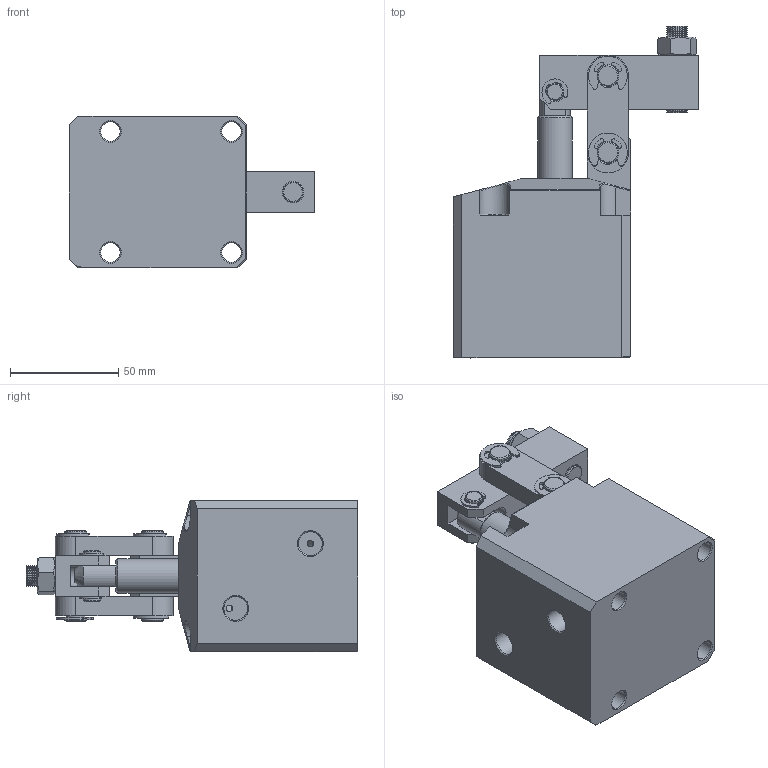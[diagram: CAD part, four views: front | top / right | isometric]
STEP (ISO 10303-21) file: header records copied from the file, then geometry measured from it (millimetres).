
FILE_DESCRIPTION(/* description */ ('STEP AP214'),/* implementation_level */ '2;1');
FILE_NAME(/* name */ 'D:\Vault_2016\Projekty\Clamptek\Hydraulic\CBLU\CBLU-45\STEP\CBLU-45.stp',/* time_stamp */ '2021-05-06T12:36:37+02:00',/* author */ ('user'),/* organization */ (''),/* preprocessor_version */ 'ST-DEVELOPER v18.1',/* originating_system */ 'Autodesk Inventor 2021',/* authorisation */ '');
FILE_SCHEMA (('AUTOMOTIVE_DESIGN { 1 0 10303 214 3 1 1 }'));
Length unit declared in the file: millimetre
Products named in the file (11): CBLU-45; 45C±¾Ìå_1_1_1; Á¬¸Ë; Áã¼þ3_1_1; 45Ñ¹°å; ¶ÌÏúÖá; ³¤ÏúÖá; Ð¡µ¯; ´ó¿Û; ÂÝÄ¸; ÂÝË¨M10
Assembly tree (16 placements, depth 2):
  CBLU-45
    45C±¾Ìå_1_1_1
    Á¬¸Ë  x2
    Áã¼þ3_1_1
    45Ñ¹°å
    ¶ÌÏúÖá
    ³¤ÏúÖá  x2
    Ð¡µ¯  x2
    ´ó¿Û  x4
    ÂÝÄ¸
    ÂÝË¨M10
Bounding box: 113.5 x 153.5 x 70 mm (x, y, z)
Volume: 454971.7 mm3; surface area: 87073.1 mm2
Topology: 16 solids, 16 shells, 458 faces, 1151 edges, 743 vertices
Faces by surface type: cylinder 163, plane 160, cone 126, bspline 9
Full cylindrical faces by diameter (mm): 3 x3, 6.9 x1, 7 x1, 8 x6, 8.376 x1, 8.5 x1, 8.9 x2, 9 x6, 10 x52, 11 x2, 16 x1, 45 x2
Entity records: 12200 total; most frequent: CARTESIAN_POINT 2924, DIRECTION 1984, ORIENTED_EDGE 1774, EDGE_CURVE 887, AXIS2_PLACEMENT_3D 768, VERTEX_POINT 568, LINE 448, VECTOR 448
